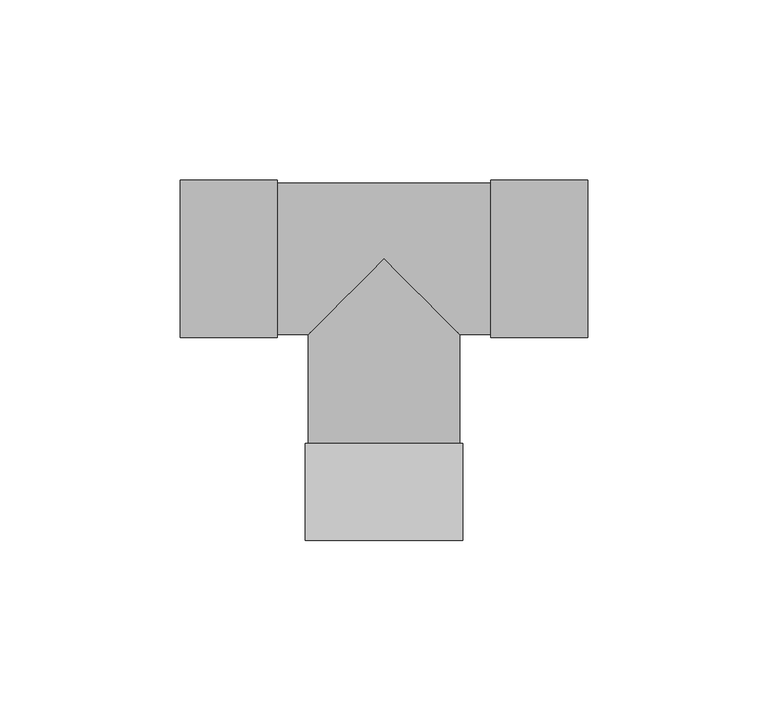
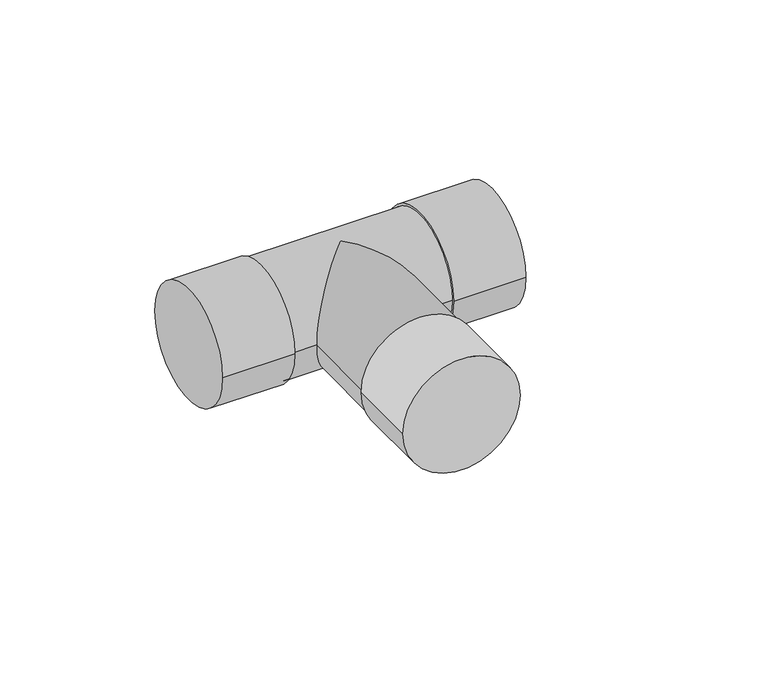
"""IFC4 building model written with IfcOpenShell, lengths in millimetres: pipe fitting geometry, Tê - Soldado - CU : Padrão."""

from ifc_helpers import new_model, si_unit, frame, origin, place, context, project, spatial, circle_curve, ellipse_curve, source, transform, mapped, element, save
from ifc_brep_helpers import plane_surface, cylinder_surface, advanced_brep


def pipe_fitting_3bcfee68(model_context):
    return source(origin(), model_context, "Body", "AdvancedBrep", [
        advanced_brep(
        [(21.8606003, -78.2998324, 0.0), (-21.8593997, -78.3001676, 0.0), (21.8603933, -51.2998324, 0.0), (-21.8596067, -51.3001676, 0.0), (21.0003933, -51.299839, 0.0), (-20.9996067, -51.300161, 0.0), (-56.6, -21.86, 0.0), (-56.6, 21.86, 0.0), (-29.6, -21.86, 0.0), (-29.6, 21.86, 0.0), (-29.6, -21.0, 0.0), (-29.6, 21.0, 0.0), (29.6, 21.0, 0.0), (-20.999839, -21.0, 0.0), (0.0, 0.0, 21.0), (21.000161, -21.0, 0.0), (29.6, -21.0, 0.0), (0.0, 0.0, -21.0), (29.6, -21.86, 0.0), (29.6, 21.86, 0.0), (56.6, -21.86, 0.0), (56.6, 21.86, 0.0)],
        [
            (0, 1, circle_curve(frame((0.0006003, -78.3, 0.0), z_axis=(7.666848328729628e-06, -0.9999999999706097, 0.0), x_axis=(-0.9999999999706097, -7.666848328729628e-06, 0.0)), 21.86)),
            (1, 0, circle_curve(frame((0.0006003, -78.3, 0.0), z_axis=(7.666848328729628e-06, -0.9999999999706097, 0.0), x_axis=(-0.9999999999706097, -7.666848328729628e-06, 0.0)), 21.86)),
            (2, 3, circle_curve(frame((0.0003933, -51.3, 0.0), z_axis=(-7.666848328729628e-06, 0.9999999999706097, 0.0), x_axis=(-0.9999999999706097, -7.666848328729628e-06, 0.0)), 21.86)),
            (3, 2, circle_curve(frame((0.0003933, -51.3, 0.0), z_axis=(-7.666848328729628e-06, 0.9999999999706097, 0.0), x_axis=(-0.9999999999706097, -7.666848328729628e-06, 0.0)), 21.86)),
            (4, 5, circle_curve(frame((0.0003933, -51.3, 0.0), z_axis=(7.666848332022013e-06, -0.9999999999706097, 0.0), x_axis=(0.9999999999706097, 7.666848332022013e-06, 0.0)), 21.0)),
            (5, 4, circle_curve(frame((0.0003933, -51.3, 0.0), z_axis=(7.666848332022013e-06, -0.9999999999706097, 0.0), x_axis=(0.9999999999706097, 7.666848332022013e-06, 0.0)), 21.0)),
            (0, 2),
            (3, 1),
            (6, 7, circle_curve(frame((-56.6, 0.0, 0.0), z_axis=(-1.0, 0.0, 0.0), x_axis=(0.0, 1.0, 0.0)), 21.86)),
            (7, 6, circle_curve(frame((-56.6, 0.0, 0.0), z_axis=(-1.0, 0.0, 0.0), x_axis=(0.0, 1.0, 0.0)), 21.86)),
            (8, 9, circle_curve(frame((-29.6, 0.0, 0.0), z_axis=(1.0, 0.0, 0.0), x_axis=(0.0, 1.0, 0.0)), 21.86)),
            (9, 8, circle_curve(frame((-29.6, 0.0, 0.0), z_axis=(1.0, 0.0, 0.0), x_axis=(0.0, 1.0, 0.0)), 21.86)),
            (10, 11, circle_curve(frame((-29.6, 0.0, 0.0), z_axis=(-1.0, 0.0, 0.0), x_axis=(0.0, 1.0, 0.0)), 21.0)),
            (11, 10, circle_curve(frame((-29.6, 0.0, 0.0), z_axis=(-1.0, 0.0, 0.0), x_axis=(0.0, 1.0, 0.0)), 21.0)),
            (6, 8),
            (9, 7),
            (12, 11),
            (10, 13),
            (13, 14, ellipse_curve(frame((0.0, 0.0, 0.0), z_axis=(-0.7071094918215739, 0.7071040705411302, 0.0), x_axis=(-0.7071040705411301, -0.707109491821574, 0.0)), 29.698371, 21.0)),
            (14, 15, ellipse_curve(frame((0.0, 0.0, 0.0), z_axis=(0.7071040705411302, 0.7071094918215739, 0.0), x_axis=(-0.7071094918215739, 0.7071040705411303, 0.0)), 29.6985987, 21.0)),
            (15, 16),
            (16, 12, circle_curve(frame((29.6, 0.0, 0.0), z_axis=(-1.0, 0.0, 0.0), x_axis=(0.0, 1.0, 0.0)), 21.0)),
            (12, 16, circle_curve(frame((29.6, 0.0, 0.0), z_axis=(-1.0, 0.0, 0.0), x_axis=(0.0, 1.0, 0.0)), 21.0)),
            (15, 17, ellipse_curve(frame((0.0, 0.0, 0.0), z_axis=(0.7071040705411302, 0.7071094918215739, 0.0), x_axis=(-0.7071094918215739, 0.7071040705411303, 0.0)), 29.6985987, 21.0)),
            (17, 13, ellipse_curve(frame((0.0, 0.0, 0.0), z_axis=(-0.7071094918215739, 0.7071040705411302, 0.0), x_axis=(-0.7071040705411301, -0.707109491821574, 0.0)), 29.698371, 21.0)),
            (18, 19, circle_curve(frame((29.6, 0.0, 0.0), z_axis=(-1.0, 0.0, 0.0), x_axis=(0.0, 1.0, 0.0)), 21.86)),
            (19, 18, circle_curve(frame((29.6, 0.0, 0.0), z_axis=(-1.0, 0.0, 0.0), x_axis=(0.0, 1.0, 0.0)), 21.86)),
            (20, 21, circle_curve(frame((56.6, 0.0, 0.0), z_axis=(1.0, 0.0, 0.0), x_axis=(0.0, 1.0, 0.0)), 21.86)),
            (21, 20, circle_curve(frame((56.6, 0.0, 0.0), z_axis=(1.0, 0.0, 0.0), x_axis=(0.0, 1.0, 0.0)), 21.86)),
            (18, 20),
            (21, 19),
            (4, 15),
            (13, 5),
        ],
        [
            plane_surface(frame((0.0006003, -78.3, 0.0), z_axis=(7.666848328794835e-06, -0.9999999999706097, 0.0), x_axis=(0.0, 0.0, 1.0))),
            plane_surface(frame((0.0003933, -51.3, 0.0), z_axis=(-7.666848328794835e-06, 0.9999999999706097, 0.0), x_axis=(0.0, 0.0, 1.0))),
            cylinder_surface(frame((0.0006003, -78.3, 0.0), z_axis=(7.666848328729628e-06, -0.9999999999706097, 0.0), x_axis=(-0.9999999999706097, -7.666848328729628e-06, 0.0)), 21.86),
            plane_surface(frame((-56.6, 0.0, 0.0), z_axis=(-1.0, 0.0, 0.0), x_axis=(0.0, 0.0, 1.0))),
            plane_surface(frame((-29.6, 0.0, 0.0), z_axis=(1.0, 0.0, 0.0), x_axis=(0.0, 0.0, 1.0))),
            cylinder_surface(frame((-56.6, 0.0, 0.0), z_axis=(-1.0, 0.0, 0.0), x_axis=(0.0, 1.0, 0.0)), 21.86),
            cylinder_surface(frame((-29.6, 0.0, 0.0), z_axis=(-1.0, 0.0, 0.0), x_axis=(0.0, 1.0, 0.0)), 21.0),
            plane_surface(frame((29.6, 0.0, 0.0), z_axis=(-1.0, 0.0, 0.0), x_axis=(0.0, 0.0, 1.0))),
            plane_surface(frame((56.6, 0.0, 0.0), z_axis=(1.0, 0.0, 0.0), x_axis=(0.0, 0.0, 1.0))),
            cylinder_surface(frame((29.6, 0.0, 0.0), z_axis=(-1.0, 0.0, 0.0), x_axis=(0.0, 1.0, 0.0)), 21.86),
            cylinder_surface(frame((0.0, 0.0, 0.0), z_axis=(-7.666848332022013e-06, 0.9999999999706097, 0.0), x_axis=(0.9999999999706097, 7.666848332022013e-06, 0.0)), 21.0),
        ],
        [
            (0, [[1, 2]]),
            (1, [[3, 4], [5, 6]]),
            (2, [[-1, 7, -4, 8]]),
            (2, [[-2, -8, -3, -7]]),
            (3, [[9, 10]]),
            (4, [[11, 12], [13, 14]]),
            (5, [[-9, 15, -12, 16]]),
            (5, [[-10, -16, -11, -15]]),
            (6, [[17, -13, 18, 19, 20, 21, 22]]),
            (6, [[-17, 23, -21, 24, 25, -18, -14]]),
            (7, [[26, 27], [-22, -23]]),
            (8, [[28, 29]]),
            (9, [[-26, 30, -29, 31]]),
            (9, [[-27, -31, -28, -30]]),
            (10, [[32, -20, -19, 33, -5]]),
            (10, [[-32, -6, -33, -25, -24]]),
        ],
    ),
    ])


if __name__ == "__main__":
    model = new_model("IFC4")
    model_context = context("Model", 3, world=origin())
    ifc_project = project(units=[si_unit("LENGTHUNIT", "METRE", prefix="MILLI")], contexts=[model_context])
    site = spatial("IfcSite", under=ifc_project)
    building = spatial("IfcBuilding", under=site)
    placement = place(None, origin())
    pipe_fitting_shape = pipe_fitting_3bcfee68(model_context)
    element("IfcPipeFitting", 1, ObjectType="Tê - Soldado - CU : Padrão", at=placement, inside=building, context=model_context, shape_type="MappedRepresentation", body=[
        mapped(pipe_fitting_shape, transform((0.0, 0.0, 0.0), x_axis=(1.0, 0.0, 0.0), y_axis=(0.0, 1.0, 0.0), z_axis=(0.0, 0.0, 1.0))),
    ])
    save(model, "model.ifc")
